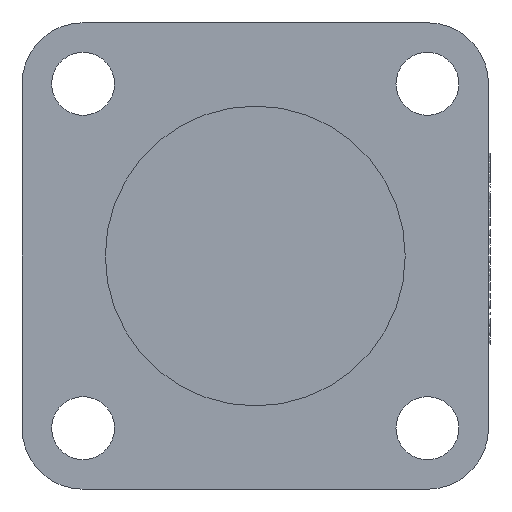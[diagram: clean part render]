
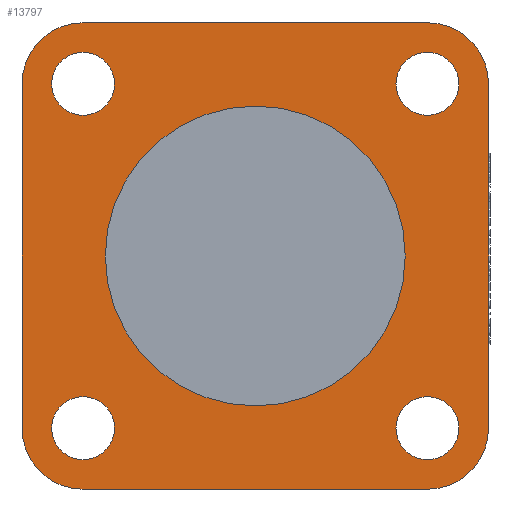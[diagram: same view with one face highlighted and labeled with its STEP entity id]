
A CAD part, left-side view. The second image highlights one B-rep face of the part: STEP entity #13797.
In plain terms, the highlighted planar face has unit normal (-1, 0, 0).
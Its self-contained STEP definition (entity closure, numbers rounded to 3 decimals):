
#12617=CARTESIAN_POINT('Line Origine',(-10.5,-31.5,0.)) ;
#12621=CARTESIAN_POINT('Vertex',(-10.5,-31.5,23.25)) ;
#12623=CARTESIAN_POINT('Vertex',(-10.5,-31.5,-23.25)) ;
#13372=CARTESIAN_POINT('Vertex',(-10.5,27.5,23.25)) ;
#13375=CARTESIAN_POINT('Axis2P3D Location',(-10.5,23.25,23.25)) ;
#13379=CARTESIAN_POINT('Vertex',(-10.5,19.,23.25)) ;
#13394=CARTESIAN_POINT('Axis2P3D Location',(-10.5,23.25,23.25)) ;
#13415=CARTESIAN_POINT('Vertex',(-10.5,27.5,-23.25)) ;
#13418=CARTESIAN_POINT('Axis2P3D Location',(-10.5,23.25,-23.25)) ;
#13422=CARTESIAN_POINT('Vertex',(-10.5,19.,-23.25)) ;
#13437=CARTESIAN_POINT('Axis2P3D Location',(-10.5,23.25,-23.25)) ;
#13458=CARTESIAN_POINT('Vertex',(-10.5,-27.5,-23.25)) ;
#13461=CARTESIAN_POINT('Axis2P3D Location',(-10.5,-23.25,-23.25)) ;
#13465=CARTESIAN_POINT('Vertex',(-10.5,-19.,-23.25)) ;
#13480=CARTESIAN_POINT('Axis2P3D Location',(-10.5,-23.25,-23.25)) ;
#13501=CARTESIAN_POINT('Vertex',(-10.5,-27.5,23.25)) ;
#13504=CARTESIAN_POINT('Axis2P3D Location',(-10.5,-23.25,23.25)) ;
#13508=CARTESIAN_POINT('Vertex',(-10.5,-19.,23.25)) ;
#13523=CARTESIAN_POINT('Axis2P3D Location',(-10.5,-23.25,23.25)) ;
#13681=CARTESIAN_POINT('Vertex',(-10.5,20.25,0.)) ;
#13684=CARTESIAN_POINT('Axis2P3D Location',(-10.5,0.,0.)) ;
#13688=CARTESIAN_POINT('Vertex',(-10.5,-20.25,0.)) ;
#13703=CARTESIAN_POINT('Axis2P3D Location',(-10.5,0.,0.)) ;
#13715=CARTESIAN_POINT('Axis2P3D Location',(-10.5,0.,0.)) ;
#13720=CARTESIAN_POINT('Line Origine',(-10.5,0.,31.5)) ;
#13724=CARTESIAN_POINT('Vertex',(-10.5,23.25,31.5)) ;
#13726=CARTESIAN_POINT('Vertex',(-10.5,-23.25,31.5)) ;
#13729=CARTESIAN_POINT('Axis2P3D Location',(-10.5,23.25,23.25)) ;
#13733=CARTESIAN_POINT('Vertex',(-10.5,31.5,23.25)) ;
#13736=CARTESIAN_POINT('Line Origine',(-10.5,31.5,0.)) ;
#13740=CARTESIAN_POINT('Vertex',(-10.5,31.5,-23.25)) ;
#13743=CARTESIAN_POINT('Axis2P3D Location',(-10.5,23.25,-23.25)) ;
#13747=CARTESIAN_POINT('Vertex',(-10.5,23.25,-31.5)) ;
#13750=CARTESIAN_POINT('Line Origine',(-10.5,0.,-31.5)) ;
#13754=CARTESIAN_POINT('Vertex',(-10.5,-23.25,-31.5)) ;
#13757=CARTESIAN_POINT('Axis2P3D Location',(-10.5,-23.25,-23.25)) ;
#13762=CARTESIAN_POINT('Axis2P3D Location',(-10.5,-23.25,23.25)) ;
#12618=DIRECTION('Vector Direction',(0.,0.,-1.)) ;
#13376=DIRECTION('Axis2P3D Direction',(1.,0.,0.)) ;
#13395=DIRECTION('Axis2P3D Direction',(1.,0.,0.)) ;
#13419=DIRECTION('Axis2P3D Direction',(1.,0.,0.)) ;
#13438=DIRECTION('Axis2P3D Direction',(1.,0.,0.)) ;
#13462=DIRECTION('Axis2P3D Direction',(1.,0.,0.)) ;
#13481=DIRECTION('Axis2P3D Direction',(1.,0.,0.)) ;
#13505=DIRECTION('Axis2P3D Direction',(1.,0.,0.)) ;
#13524=DIRECTION('Axis2P3D Direction',(1.,0.,0.)) ;
#13685=DIRECTION('Axis2P3D Direction',(-1.,-0.,0.)) ;
#13704=DIRECTION('Axis2P3D Direction',(-1.,-0.,0.)) ;
#13716=DIRECTION('Axis2P3D Direction',(1.,0.,0.)) ;
#13717=DIRECTION('Axis2P3D XDirection',(0.,1.,0.)) ;
#13721=DIRECTION('Vector Direction',(0.,1.,0.)) ;
#13730=DIRECTION('Axis2P3D Direction',(1.,0.,0.)) ;
#13737=DIRECTION('Vector Direction',(0.,0.,1.)) ;
#13744=DIRECTION('Axis2P3D Direction',(1.,0.,0.)) ;
#13751=DIRECTION('Vector Direction',(0.,-1.,0.)) ;
#13758=DIRECTION('Axis2P3D Direction',(1.,0.,0.)) ;
#13763=DIRECTION('Axis2P3D Direction',(1.,0.,0.)) ;
#13377=AXIS2_PLACEMENT_3D('Circle Axis2P3D',#13375,#13376,$) ;
#13396=AXIS2_PLACEMENT_3D('Circle Axis2P3D',#13394,#13395,$) ;
#13420=AXIS2_PLACEMENT_3D('Circle Axis2P3D',#13418,#13419,$) ;
#13439=AXIS2_PLACEMENT_3D('Circle Axis2P3D',#13437,#13438,$) ;
#13463=AXIS2_PLACEMENT_3D('Circle Axis2P3D',#13461,#13462,$) ;
#13482=AXIS2_PLACEMENT_3D('Circle Axis2P3D',#13480,#13481,$) ;
#13506=AXIS2_PLACEMENT_3D('Circle Axis2P3D',#13504,#13505,$) ;
#13525=AXIS2_PLACEMENT_3D('Circle Axis2P3D',#13523,#13524,$) ;
#13686=AXIS2_PLACEMENT_3D('Circle Axis2P3D',#13684,#13685,$) ;
#13705=AXIS2_PLACEMENT_3D('Circle Axis2P3D',#13703,#13704,$) ;
#13718=AXIS2_PLACEMENT_3D('Plane Axis2P3D',#13715,#13716,#13717) ;
#13731=AXIS2_PLACEMENT_3D('Circle Axis2P3D',#13729,#13730,$) ;
#13745=AXIS2_PLACEMENT_3D('Circle Axis2P3D',#13743,#13744,$) ;
#13759=AXIS2_PLACEMENT_3D('Circle Axis2P3D',#13757,#13758,$) ;
#13764=AXIS2_PLACEMENT_3D('Circle Axis2P3D',#13762,#13763,$) ;
#13768=ORIENTED_EDGE('',*,*,#13728,.F.) ;
#13769=ORIENTED_EDGE('',*,*,#13735,.F.) ;
#13770=ORIENTED_EDGE('',*,*,#13742,.F.) ;
#13771=ORIENTED_EDGE('',*,*,#13749,.F.) ;
#13772=ORIENTED_EDGE('',*,*,#13756,.F.) ;
#13773=ORIENTED_EDGE('',*,*,#13761,.F.) ;
#13774=ORIENTED_EDGE('',*,*,#12625,.F.) ;
#13775=ORIENTED_EDGE('',*,*,#13766,.F.) ;
#13778=ORIENTED_EDGE('',*,*,#13690,.F.) ;
#13779=ORIENTED_EDGE('',*,*,#13707,.F.) ;
#13782=ORIENTED_EDGE('',*,*,#13510,.T.) ;
#13783=ORIENTED_EDGE('',*,*,#13527,.T.) ;
#13786=ORIENTED_EDGE('',*,*,#13467,.T.) ;
#13787=ORIENTED_EDGE('',*,*,#13484,.T.) ;
#13790=ORIENTED_EDGE('',*,*,#13424,.T.) ;
#13791=ORIENTED_EDGE('',*,*,#13441,.T.) ;
#13794=ORIENTED_EDGE('',*,*,#13381,.T.) ;
#13795=ORIENTED_EDGE('',*,*,#13398,.T.) ;
#13780=FACE_BOUND('',#13777,.T.) ;
#13784=FACE_BOUND('',#13781,.T.) ;
#13788=FACE_BOUND('',#13785,.T.) ;
#13792=FACE_BOUND('',#13789,.T.) ;
#13796=FACE_BOUND('',#13793,.T.) ;
#12619=VECTOR('Line Direction',#12618,1.) ;
#13722=VECTOR('Line Direction',#13721,1.) ;
#13738=VECTOR('Line Direction',#13737,1.) ;
#13752=VECTOR('Line Direction',#13751,1.) ;
#13797=ADVANCED_FACE('PartBody',(#13776,#13780,#13784,#13788,#13792,#13796),#13719,.F.) ;
#13378=CIRCLE('generated circle',#13377,4.25) ;
#13397=CIRCLE('generated circle',#13396,4.25) ;
#13421=CIRCLE('generated circle',#13420,4.25) ;
#13440=CIRCLE('generated circle',#13439,4.25) ;
#13464=CIRCLE('generated circle',#13463,4.25) ;
#13483=CIRCLE('generated circle',#13482,4.25) ;
#13507=CIRCLE('generated circle',#13506,4.25) ;
#13526=CIRCLE('generated circle',#13525,4.25) ;
#13687=CIRCLE('generated circle',#13686,20.25) ;
#13706=CIRCLE('generated circle',#13705,20.25) ;
#13732=CIRCLE('generated circle',#13731,8.25) ;
#13746=CIRCLE('generated circle',#13745,8.25) ;
#13760=CIRCLE('generated circle',#13759,8.25) ;
#13765=CIRCLE('generated circle',#13764,8.25) ;
#12625=EDGE_CURVE('',#12622,#12624,#12620,.T.) ;
#13381=EDGE_CURVE('',#13380,#13373,#13378,.T.) ;
#13398=EDGE_CURVE('',#13373,#13380,#13397,.T.) ;
#13424=EDGE_CURVE('',#13423,#13416,#13421,.T.) ;
#13441=EDGE_CURVE('',#13416,#13423,#13440,.T.) ;
#13467=EDGE_CURVE('',#13466,#13459,#13464,.T.) ;
#13484=EDGE_CURVE('',#13459,#13466,#13483,.T.) ;
#13510=EDGE_CURVE('',#13509,#13502,#13507,.T.) ;
#13527=EDGE_CURVE('',#13502,#13509,#13526,.T.) ;
#13690=EDGE_CURVE('',#13682,#13689,#13687,.T.) ;
#13707=EDGE_CURVE('',#13689,#13682,#13706,.T.) ;
#13728=EDGE_CURVE('',#13725,#13727,#13723,.F.) ;
#13735=EDGE_CURVE('',#13734,#13725,#13732,.T.) ;
#13742=EDGE_CURVE('',#13741,#13734,#13739,.T.) ;
#13749=EDGE_CURVE('',#13748,#13741,#13746,.T.) ;
#13756=EDGE_CURVE('',#13755,#13748,#13753,.F.) ;
#13761=EDGE_CURVE('',#12624,#13755,#13760,.T.) ;
#13766=EDGE_CURVE('',#13727,#12622,#13765,.T.) ;
#13767=EDGE_LOOP('',(#13768,#13769,#13770,#13771,#13772,#13773,#13774,#13775)) ;
#13777=EDGE_LOOP('',(#13778,#13779)) ;
#13781=EDGE_LOOP('',(#13782,#13783)) ;
#13785=EDGE_LOOP('',(#13786,#13787)) ;
#13789=EDGE_LOOP('',(#13790,#13791)) ;
#13793=EDGE_LOOP('',(#13794,#13795)) ;
#13776=FACE_OUTER_BOUND('',#13767,.T.) ;
#12620=LINE('Line',#12617,#12619) ;
#13723=LINE('Line',#13720,#13722) ;
#13739=LINE('Line',#13736,#13738) ;
#13753=LINE('Line',#13750,#13752) ;
#13719=PLANE('',#13718) ;
#12622=VERTEX_POINT('',#12621) ;
#12624=VERTEX_POINT('',#12623) ;
#13373=VERTEX_POINT('',#13372) ;
#13380=VERTEX_POINT('',#13379) ;
#13416=VERTEX_POINT('',#13415) ;
#13423=VERTEX_POINT('',#13422) ;
#13459=VERTEX_POINT('',#13458) ;
#13466=VERTEX_POINT('',#13465) ;
#13502=VERTEX_POINT('',#13501) ;
#13509=VERTEX_POINT('',#13508) ;
#13682=VERTEX_POINT('',#13681) ;
#13689=VERTEX_POINT('',#13688) ;
#13725=VERTEX_POINT('',#13724) ;
#13727=VERTEX_POINT('',#13726) ;
#13734=VERTEX_POINT('',#13733) ;
#13741=VERTEX_POINT('',#13740) ;
#13748=VERTEX_POINT('',#13747) ;
#13755=VERTEX_POINT('',#13754) ;
